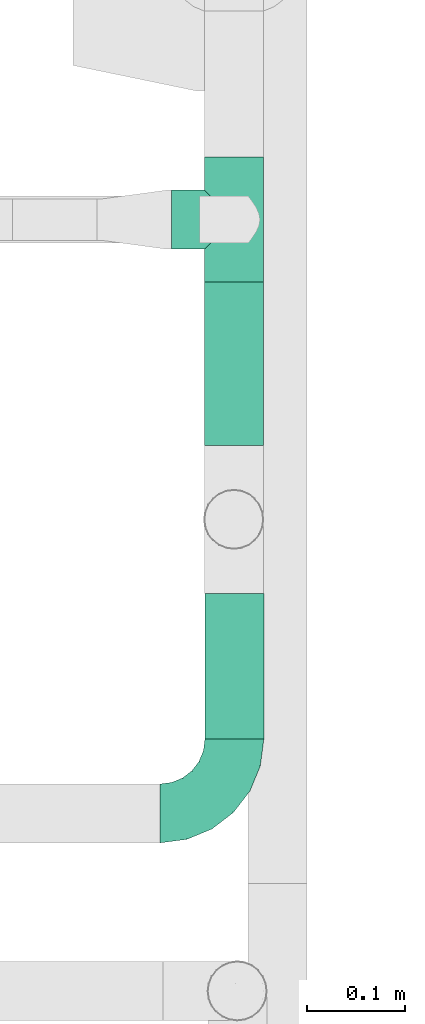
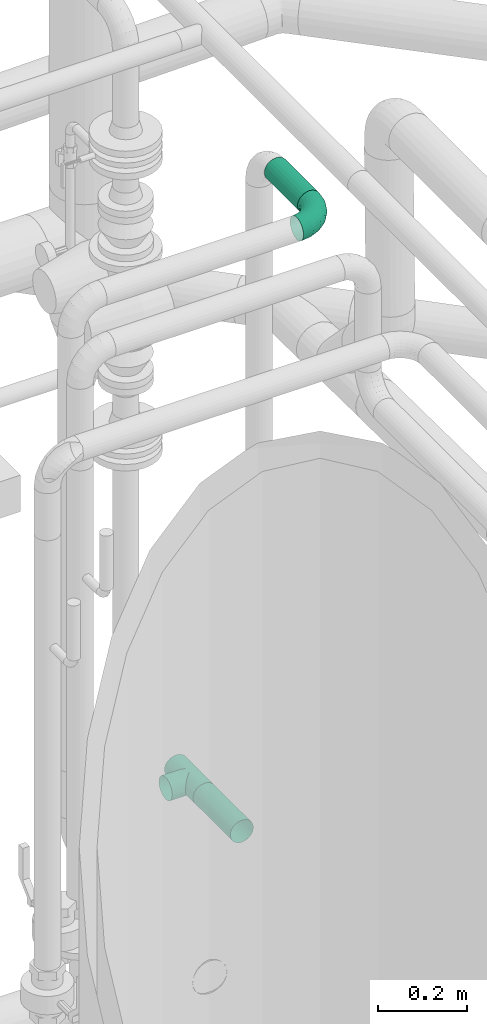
# One storey, part 290 of 374: 3 flow segments, 1 flow fitting.
"""IFC2X3 building model written with IfcOpenShell, lengths in metres."""

from ifc_helpers import new_model, si_unit, direction, origin, place, context, subcontext, project, spatial, open_shell, surface_model, source, transform, mapped, element, save


model = new_model("IFC2X3")

# Units and contexts
model_context = context("Model", 3, precision=1e-05, world=origin(), true_north=direction((-0.4480736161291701, 0.8939966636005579)))
body_context = subcontext(model_context, "Body", "Model", "MODEL_VIEW")
ifc_project = project(units=[si_unit("LENGTHUNIT", "METRE"), si_unit("AREAUNIT", "SQUARE_METRE"), si_unit("VOLUMEUNIT", "CUBIC_METRE"), si_unit("PLANEANGLEUNIT", "RADIAN"), si_unit("THERMODYNAMICTEMPERATUREUNIT", "KELVIN"), si_unit("MASSUNIT", "GRAM", prefix="KILO"), si_unit("TIMEUNIT", "SECOND")], contexts=[model_context])

# Site, building, storey
site_placement = place(None, origin())
site = spatial("IfcSite", under=ifc_project, at=site_placement, Name="Site 1", CompositionType="ELEMENT")
building_placement = place(site_placement, origin())
building = spatial("IfcBuilding", under=site, at=building_placement, Name="Undefined", CompositionType="ELEMENT")
storey_placement = place(building_placement, origin())
storey = spatial("IfcBuildingStorey", under=building, at=storey_placement, Name="Rez de chauss\x8ee", CompositionType="ELEMENT", Elevation=0.0)

# Flow segments
shared_shape_1 = source(origin(), body_context, "Body", "SurfaceModel", [
    surface_model("IfcFaceBasedSurfaceModel", [(0.027710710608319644, 4.4408921e-16, 0.0), (0.02757661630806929, 0.00786958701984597, 7.105427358e-15), (0.00013409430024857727, 0.00786958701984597, 0.0), (0.0, 0.0, 0.0), (-0.02637334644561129, 0.008788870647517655, -0.0070429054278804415), (-0.026766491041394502, 0.0009282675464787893, -0.007111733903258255), (-0.050139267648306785, 0.010564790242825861, -0.02064875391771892), (-0.050764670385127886, 0.0027215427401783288, -0.02085054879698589), (-0.06954406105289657, 0.013076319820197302, -0.03989032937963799), (-0.07035910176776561, 0.00525761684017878, -0.04028016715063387), (-0.0832653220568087, 0.01615230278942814, -0.06345635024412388), (-0.08421445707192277, 0.00836366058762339, -0.06407649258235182), (-0.09036796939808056, 0.019583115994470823, -0.08974083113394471), (-0.0913865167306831, 0.011828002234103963, -0.09061784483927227), (0.027183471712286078, 0.015466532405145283, -0.0020199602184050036), (0.0005272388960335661, 0.015466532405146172, -0.0020199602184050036), (-0.025220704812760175, 0.016359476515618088, -0.008861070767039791), (-0.048305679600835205, 0.018084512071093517, -0.02207708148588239), (-0.06715448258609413, 0.020524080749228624, -0.04076734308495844), (-0.0804825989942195, 0.023511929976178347, -0.06365814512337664), (-0.08738173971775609, 0.026844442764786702, -0.08918951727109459), (0.026558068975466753, 0.022273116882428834, -0.005922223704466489), (0.001152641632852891, 0.02227311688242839, -0.005922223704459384), (-0.02338711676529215, 0.023124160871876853, -0.012442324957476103), (-0.04538886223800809, 0.02476825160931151, -0.02503819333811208), (-0.06335321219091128, 0.027093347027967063, -0.042851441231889), (-0.07605592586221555, 0.029940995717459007, -0.06466812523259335), (-0.08263133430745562, 0.033117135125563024, -0.08900147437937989), (0.025743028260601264, 0.0278254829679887, -0.011440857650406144), (0.0019676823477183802, 0.027825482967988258, -0.011440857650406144), (-0.020997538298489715, 0.028621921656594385, -0.017542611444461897), (-0.04158759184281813, 0.03016052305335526, -0.029330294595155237), (-0.058399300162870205, 0.0323364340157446, -0.04600059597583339), (-0.07028697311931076, 0.03500136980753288, -0.06641746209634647), (-0.07644048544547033, 0.0379737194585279, -0.08918951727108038), (0.02479389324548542, 0.03174524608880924, -0.01819977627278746), (0.0029168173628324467, 0.03174524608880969, -0.01819977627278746), (-0.018214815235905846, 0.0324780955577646, -0.023814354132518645), (-0.03716091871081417, 0.033893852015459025, -0.034660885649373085), (-0.052630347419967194, 0.03589603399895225, -0.05000019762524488), (-0.06356888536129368, 0.03834819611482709, -0.06878694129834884), (-0.06923108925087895, 0.041083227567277, -0.0897408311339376), (0.023775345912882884, 0.03376528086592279, -0.02573837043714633), (0.003935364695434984, 0.03376528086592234, -0.02573837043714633), (-0.01522858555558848, 0.03442989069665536, -0.03083014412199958), (-0.0324105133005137, 0.03571381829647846, -0.040666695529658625), (-0.046439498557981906, 0.0375295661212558, -0.05457767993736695), (-0.05635948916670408, 0.039753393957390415, -0.07161508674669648), (-0.061494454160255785, 0.04223375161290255, -0.09061784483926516), (0.022756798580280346, 0.03374792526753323, -0.033542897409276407), (0.0049539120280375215, 0.033747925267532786, -0.033542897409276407), (-0.01224235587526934, 0.03434429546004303, -0.03811186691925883), (-0.027660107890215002, 0.035496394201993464, -0.04693843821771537), (-0.040248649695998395, 0.0371257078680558, -0.05942109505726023), (-0.04915009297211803, 0.039121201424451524, -0.07470916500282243), (-0.05375781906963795, 0.041346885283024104, -0.09176079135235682), (0.02180766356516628, 0.03169436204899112, -0.04108149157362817), (0.005903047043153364, 0.031694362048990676, -0.04108149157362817), (-0.00945963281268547, 0.03222714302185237, -0.045163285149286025), (-0.02323343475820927, 0.03325639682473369, -0.05304870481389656), (-0.034479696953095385, 0.034711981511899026, -0.06420037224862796), (-0.04243200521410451, 0.036494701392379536, -0.07785831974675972), (-0.04654842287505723, 0.03848306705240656, -0.09309178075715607), (0.020992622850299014, 0.02774453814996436, -0.0478404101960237), (0.006718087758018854, 0.027744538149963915, -0.0478404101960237), (-0.007070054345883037, 0.02822271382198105, -0.05150385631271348), (-0.019432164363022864, 0.0291464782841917, -0.0585810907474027), (-0.029525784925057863, 0.030452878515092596, -0.06858981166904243), (-0.03666305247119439, 0.032052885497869, -0.08084794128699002), (-0.04035757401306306, 0.03383746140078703, -0.09452010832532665), (0.020367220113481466, 0.022167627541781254, -0.05335904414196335), (0.0073434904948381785, 0.022167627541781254, -0.05335904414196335), (-0.00523646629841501, 0.02260390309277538, -0.05670148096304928), (-0.016515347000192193, 0.023446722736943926, -0.06315857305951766), (-0.025724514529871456, 0.02463864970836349, -0.07229028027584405), (-0.03223637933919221, 0.02609845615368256, -0.0834742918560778), (-0.03560716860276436, 0.027726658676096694, -0.09594843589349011), (0.019974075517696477, 0.01534368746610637, -0.05726130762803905), (0.007736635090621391, 0.01534368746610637, -0.05726130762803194), (-0.004083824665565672, 0.01575362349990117, -0.06040194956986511), (-0.014681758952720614, 0.01654555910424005, -0.06646920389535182), (-0.02333493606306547, 0.01766552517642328, -0.07504959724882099), (-0.029453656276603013, 0.01903719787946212, -0.08555839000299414), (-0.032620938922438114, 0.02056709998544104, -0.09727942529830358), (0.019839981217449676, 0.00773775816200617, -0.05928126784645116), (0.007870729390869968, 0.007737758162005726, -0.05928126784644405), (-0.003690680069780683, 0.008138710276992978, -0.062353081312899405), (-0.014056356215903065, 0.008913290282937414, -0.06828736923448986), (-0.022519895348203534, 0.01000871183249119, -0.07667971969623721), (-0.0285045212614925, 0.011350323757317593, -0.08695820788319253), (-0.03160239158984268, 0.012846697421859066, -0.09842237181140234), (0.019974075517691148, -0.0001318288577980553, -0.05928126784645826), (0.007736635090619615, -0.0001318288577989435, -0.05928126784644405), (-0.004083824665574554, 0.0002781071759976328, -0.062421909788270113), (-0.014681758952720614, 0.001070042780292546, -0.06848916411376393), (-0.02333493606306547, 0.0021900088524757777, -0.0770695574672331), (-0.029453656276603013, 0.0035616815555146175, -0.08757835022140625), (-0.032620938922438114, 0.005091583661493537, -0.09929938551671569), (0.020367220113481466, -0.007728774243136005, -0.057261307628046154), (0.0073434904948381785, -0.007728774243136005, -0.057261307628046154), (-0.00523646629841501, -0.00729249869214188, -0.06060374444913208), (-0.016515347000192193, -0.0064496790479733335, -0.06706083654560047), (-0.025724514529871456, -0.005257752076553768, -0.07619254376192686), (-0.03223637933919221, -0.0037979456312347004, -0.0873765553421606), (-0.03560716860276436, -0.0021697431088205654, -0.09985069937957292), (0.020992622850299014, -0.01453535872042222, -0.053359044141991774), (0.006718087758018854, -0.014535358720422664, -0.053359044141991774), (-0.007070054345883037, -0.01405718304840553, -0.05702249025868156), (-0.019432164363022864, -0.013133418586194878, -0.06409972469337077), (-0.029525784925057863, -0.011827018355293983, -0.07410844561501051), (-0.03666305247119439, -0.01022701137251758, -0.0863665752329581), (-0.04035757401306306, -0.008442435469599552, -0.10003874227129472), (0.02180766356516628, -0.020087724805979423, -0.04784041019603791), (0.005903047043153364, -0.020087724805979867, -0.04784041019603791), (-0.00945963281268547, -0.019554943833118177, -0.05192220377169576), (-0.02323343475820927, -0.018525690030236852, -0.0598076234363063), (-0.034479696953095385, -0.017070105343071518, -0.0709592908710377), (-0.04243200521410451, -0.015287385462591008, -0.08461723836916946), (-0.04654842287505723, -0.013299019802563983, -0.09985069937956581), (0.022756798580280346, -0.024007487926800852, -0.0410814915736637), (0.0049539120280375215, -0.024007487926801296, -0.0410814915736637), (-0.01224235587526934, -0.023411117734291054, -0.04565046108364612), (-0.027660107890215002, -0.022259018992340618, -0.054477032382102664), (-0.040248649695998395, -0.02062970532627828, -0.06695968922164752), (-0.04915009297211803, -0.018634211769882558, -0.08224775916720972), (-0.05375781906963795, -0.016408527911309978, -0.09929938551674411), (0.023775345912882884, -0.026027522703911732, -0.033542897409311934), (0.003935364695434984, -0.026027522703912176, -0.033542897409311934), (-0.01522858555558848, -0.025362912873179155, -0.038634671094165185), (-0.0324105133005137, -0.024078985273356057, -0.04847122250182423), (-0.046439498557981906, -0.02226323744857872, -0.062382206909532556), (-0.05635948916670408, -0.020039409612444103, -0.07941961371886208), (-0.061494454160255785, -0.01755905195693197, -0.09842237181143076), (0.02479389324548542, -0.02601016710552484, -0.02573837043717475), (0.0029168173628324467, -0.026010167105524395, -0.02573837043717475), (-0.018214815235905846, -0.025277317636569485, -0.031352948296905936), (-0.03716091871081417, -0.023861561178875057, -0.04219947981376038), (-0.052630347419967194, -0.021859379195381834, -0.05753879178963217), (-0.06356888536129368, -0.01940721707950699, -0.07632553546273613), (-0.06923108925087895, -0.01667218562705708, -0.0972794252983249), (0.025743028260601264, -0.023956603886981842, -0.018199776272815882), (0.0019676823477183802, -0.023956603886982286, -0.018199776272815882), (-0.020997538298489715, -0.02316016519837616, -0.024301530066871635), (-0.04158759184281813, -0.021621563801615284, -0.036089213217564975), (-0.058399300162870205, -0.019445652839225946, -0.05275951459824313), (-0.07028697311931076, -0.016780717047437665, -0.0731763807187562), (-0.07644048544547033, -0.013808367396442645, -0.09594843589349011), (0.026558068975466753, -0.020006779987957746, -0.011440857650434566), (0.001152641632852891, -0.02000677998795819, -0.01144085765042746), (-0.02338711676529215, -0.019155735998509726, -0.01796095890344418), (-0.04538886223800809, -0.01751164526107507, -0.030556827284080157), (-0.06335321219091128, -0.015186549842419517, -0.048370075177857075), (-0.07605592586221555, -0.012338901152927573, -0.07018675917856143), (-0.08263133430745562, -0.009162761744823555, -0.09452010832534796), (0.027183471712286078, -0.014429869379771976, -0.005922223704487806), (0.0005272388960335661, -0.014429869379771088, -0.005922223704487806), (-0.025220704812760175, -0.013536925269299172, -0.012763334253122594), (-0.048305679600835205, -0.011811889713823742, -0.02597934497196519), (-0.06715448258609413, -0.009372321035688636, -0.04466960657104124), (-0.0804825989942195, -0.006384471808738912, -0.06756040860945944), (-0.08738173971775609, -0.003051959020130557, -0.09309178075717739), (0.02757661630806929, -0.007605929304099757, -0.0020199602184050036), (0.00013409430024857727, -0.007605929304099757, -0.002019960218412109), (-0.02637334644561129, -0.006686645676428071, -0.00906286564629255), (-0.050139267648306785, -0.004910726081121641, -0.02266871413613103), (-0.06954406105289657, -0.0023991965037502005, -0.0419102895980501), (-0.0832653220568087, 0.0006767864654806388, -0.06547631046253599), (-0.09036796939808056, 0.004107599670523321, -0.09176079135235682)], [open_shell([[[0, 1, 2, 3]], [[3, 2, 4, 5]], [[5, 4, 6, 7]], [[7, 6, 8, 9]], [[9, 8, 10, 11]], [[11, 10, 12, 13]], [[1, 14, 15, 2]], [[2, 15, 16, 4]], [[4, 16, 17, 6]], [[6, 17, 18, 8]], [[8, 18, 19, 10]], [[10, 19, 20, 12]], [[14, 21, 22, 15]], [[15, 22, 23, 16]], [[16, 23, 24, 17]], [[17, 24, 25, 18]], [[18, 25, 26, 19]], [[19, 26, 27, 20]], [[21, 28, 29, 22]], [[22, 29, 30, 23]], [[23, 30, 31, 24]], [[24, 31, 32, 25]], [[25, 32, 33, 26]], [[26, 33, 34, 27]], [[28, 35, 36, 29]], [[29, 36, 37, 30]], [[30, 37, 38, 31]], [[31, 38, 39, 32]], [[32, 39, 40, 33]], [[33, 40, 41, 34]], [[35, 42, 43, 36]], [[36, 43, 44, 37]], [[37, 44, 45, 38]], [[38, 45, 46, 39]], [[39, 46, 47, 40]], [[40, 47, 48, 41]], [[42, 49, 50, 43]], [[43, 50, 51, 44]], [[44, 51, 52, 45]], [[45, 52, 53, 46]], [[46, 53, 54, 47]], [[47, 54, 55, 48]], [[49, 56, 57, 50]], [[50, 57, 58, 51]], [[51, 58, 59, 52]], [[52, 59, 60, 53]], [[53, 60, 61, 54]], [[54, 61, 62, 55]], [[56, 63, 64, 57]], [[57, 64, 65, 58]], [[58, 65, 66, 59]], [[59, 66, 67, 60]], [[60, 67, 68, 61]], [[61, 68, 69, 62]], [[63, 70, 71, 64]], [[64, 71, 72, 65]], [[65, 72, 73, 66]], [[66, 73, 74, 67]], [[67, 74, 75, 68]], [[68, 75, 76, 69]], [[70, 77, 78, 71]], [[71, 78, 79, 72]], [[72, 79, 80, 73]], [[73, 80, 81, 74]], [[74, 81, 82, 75]], [[75, 82, 83, 76]], [[77, 84, 85, 78]], [[78, 85, 86, 79]], [[79, 86, 87, 80]], [[80, 87, 88, 81]], [[81, 88, 89, 82]], [[82, 89, 90, 83]], [[84, 91, 92, 85]], [[85, 92, 93, 86]], [[86, 93, 94, 87]], [[87, 94, 95, 88]], [[88, 95, 96, 89]], [[89, 96, 97, 90]], [[91, 98, 99, 92]], [[92, 99, 100, 93]], [[93, 100, 101, 94]], [[94, 101, 102, 95]], [[95, 102, 103, 96]], [[96, 103, 104, 97]], [[98, 105, 106, 99]], [[99, 106, 107, 100]], [[100, 107, 108, 101]], [[101, 108, 109, 102]], [[102, 109, 110, 103]], [[103, 110, 111, 104]], [[105, 112, 113, 106]], [[106, 113, 114, 107]], [[107, 114, 115, 108]], [[108, 115, 116, 109]], [[109, 116, 117, 110]], [[110, 117, 118, 111]], [[112, 119, 120, 113]], [[113, 120, 121, 114]], [[114, 121, 122, 115]], [[115, 122, 123, 116]], [[116, 123, 124, 117]], [[117, 124, 125, 118]], [[119, 126, 127, 120]], [[120, 127, 128, 121]], [[121, 128, 129, 122]], [[122, 129, 130, 123]], [[123, 130, 131, 124]], [[124, 131, 132, 125]], [[126, 133, 134, 127]], [[127, 134, 135, 128]], [[128, 135, 136, 129]], [[129, 136, 137, 130]], [[130, 137, 138, 131]], [[131, 138, 139, 132]], [[133, 140, 141, 134]], [[134, 141, 142, 135]], [[135, 142, 143, 136]], [[136, 143, 144, 137]], [[137, 144, 145, 138]], [[138, 145, 146, 139]], [[140, 147, 148, 141]], [[141, 148, 149, 142]], [[142, 149, 150, 143]], [[143, 150, 151, 144]], [[144, 151, 152, 145]], [[145, 152, 153, 146]], [[147, 154, 155, 148]], [[148, 155, 156, 149]], [[149, 156, 157, 150]], [[150, 157, 158, 151]], [[151, 158, 159, 152]], [[152, 159, 160, 153]], [[154, 161, 162, 155]], [[155, 162, 163, 156]], [[156, 163, 164, 157]], [[157, 164, 165, 158]], [[158, 165, 166, 159]], [[159, 166, 167, 160]], [[161, 0, 3, 162]], [[162, 3, 5, 163]], [[163, 5, 7, 164]], [[164, 7, 9, 165]], [[165, 9, 11, 166]], [[166, 11, 13, 167]]])]),
])
flow_segment_1_placement = place(storey_placement, origin())
element("IfcFlowSegment", 1, at=flow_segment_1_placement, inside=storey, Name="Tube coudé", ObjectType="Tube coudé", context=body_context, shape_type="MappedRepresentation", body=[
    mapped(shared_shape_1, transform((55.026325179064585, 11.14858881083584, 2.0596255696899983), x_axis=(0.13052616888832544, 0.991444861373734, -7.804456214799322e-05), y_axis=(-0.12772811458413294, 0.01689378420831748, 0.991665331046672), z_axis=(0.9831828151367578, -0.1294283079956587, 0.12884046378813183))),
])
shared_shape_2 = source(origin(), body_context, "Body", "SurfaceModel", [
    surface_model("IfcFaceBasedSurfaceModel", [(0.0, 0.007870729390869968, 7.105427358e-15), (0.0, 0.0, 0.0), (0.14893754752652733, -7.105427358e-15, 0.0), (0.14893754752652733, 0.007870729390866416, 0.0), (0.0, -0.00760254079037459, -0.0020370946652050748), (0.14893754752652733, -0.007602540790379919, -0.0020370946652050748), (0.0, -0.01441879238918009, -0.00597245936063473), (0.14893754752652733, -0.014418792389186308, -0.005972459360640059), (0.0, -0.019984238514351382, -0.011537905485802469), (0.14893754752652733, -0.01998423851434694, -0.011537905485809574), (0.0, -0.023919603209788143, -0.018354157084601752), (0.14893754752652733, -0.023919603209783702, -0.018354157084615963), (0.0, -0.025956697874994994, -0.025956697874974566), (0.14893754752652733, -0.025956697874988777, -0.025956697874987), (0.0, -0.025956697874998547, -0.03382742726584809), (0.14893754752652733, -0.025956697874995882, -0.03382742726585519), (0.0, -0.02391960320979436, -0.041429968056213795), (0.14893754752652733, -0.023919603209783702, -0.04142996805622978), (0.0, -0.019984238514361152, -0.04824621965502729), (0.14893754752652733, -0.01998423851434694, -0.048246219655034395), (0.0, -0.01441879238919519, -0.05381166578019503), (0.14893754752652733, -0.014418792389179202, -0.053811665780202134), (0.0, -0.007602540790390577, -0.05774703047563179), (0.14893754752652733, -0.007602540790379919, -0.05774703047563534), (0.0, -1.7763568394e-14, -0.05978412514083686), (0.14893754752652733, -7.105427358e-15, -0.05978412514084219), (0.0, 0.007870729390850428, -0.05978412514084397), (0.14893754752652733, 0.007870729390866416, -0.059784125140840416), (0.0, 0.015473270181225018, -0.057747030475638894), (0.14893754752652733, 0.01547327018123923, -0.05774703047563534), (0.0, 0.022289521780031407, -0.05381166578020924), (0.14893754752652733, 0.022289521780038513, -0.05381166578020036), (0.0, 0.027854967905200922, -0.048246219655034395), (0.14893754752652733, 0.027854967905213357, -0.04824621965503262), (0.0, 0.031790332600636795, -0.04142996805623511), (0.14893754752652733, 0.03179033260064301, -0.041429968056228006), (0.0, 0.033827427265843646, -0.0338274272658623), (0.14893754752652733, 0.03382742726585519, -0.03382742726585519), (0.0, 0.0338274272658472, -0.025956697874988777), (0.14893754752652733, 0.03382742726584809, -0.025956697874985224), (0.0, 0.0317903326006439, -0.01835415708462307), (0.14893754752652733, 0.03179033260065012, -0.01835415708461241), (0.0, 0.02785496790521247, -0.01153790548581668), (0.14893754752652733, 0.027854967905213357, -0.011537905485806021), (0.0, 0.022289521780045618, -0.005972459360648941), (0.14893754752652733, 0.022289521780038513, -0.0059724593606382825), (0.0, 0.015473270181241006, -0.0020370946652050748), (0.14893754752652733, 0.01547327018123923, -0.0020370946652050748)], [open_shell([[[0, 1, 2, 3]], [[1, 4, 5, 2]], [[4, 6, 7, 5]], [[6, 8, 9, 7]], [[8, 10, 11, 9]], [[10, 12, 13, 11]], [[12, 14, 15, 13]], [[14, 16, 17, 15]], [[16, 18, 19, 17]], [[18, 20, 21, 19]], [[20, 22, 23, 21]], [[22, 24, 25, 23]], [[24, 26, 27, 25]], [[26, 28, 29, 27]], [[28, 30, 31, 29]], [[30, 32, 33, 31]], [[32, 34, 35, 33]], [[34, 36, 37, 35]], [[36, 38, 39, 37]], [[38, 40, 41, 39]], [[40, 42, 43, 41]], [[42, 44, 45, 43]], [[44, 46, 47, 45]], [[46, 0, 3, 47]]])]),
])
flow_segment_2_placement = place(storey_placement, origin())
element("IfcFlowSegment", 2, at=flow_segment_2_placement, inside=storey, Name="Tube acier d'après DIN 2448", ObjectType="Tube acier d'après DIN 2448", context=body_context, shape_type="MappedRepresentation", body=[
    mapped(shared_shape_2, transform((55.007612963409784, 11.176062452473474, 2.0887594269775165), x_axis=(0.0, 1.0, 0.0), y_axis=(-0.991366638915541, 0.0, 0.13111898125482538), z_axis=(0.1311189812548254, 0.0, 0.9913666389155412))),
])

# Flow fitting
shared_shape_3 = source(origin(), body_context, "Body", "SurfaceModel", [
    surface_model("IfcFaceBasedSurfaceModel", [(0.0, 0.007870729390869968, 7.105427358e-15), (0.0, 0.0, 0.0), (0.1280000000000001, -8.8817842e-16, 0.0), (0.1280000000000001, 0.007870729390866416, 0.0), (0.0, -0.00760254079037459, -0.0020370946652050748), (0.1280000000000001, -0.007602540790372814, -0.002037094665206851), (0.0, -0.01441879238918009, -0.00597245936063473), (0.1280000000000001, -0.014418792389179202, -0.005972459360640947), (0.0, -0.019984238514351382, -0.011537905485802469), (0.1280000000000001, -0.01998423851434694, -0.011537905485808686), (0.0, -0.023919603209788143, -0.018354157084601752), (0.1280000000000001, -0.023919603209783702, -0.018354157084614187), (0.0, -0.025956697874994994, -0.025956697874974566), (0.1280000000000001, -0.02595669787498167, -0.02595669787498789), (0.0, -0.025956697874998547, -0.03382742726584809), (0.1280000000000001, -0.025956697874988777, -0.03382742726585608), (0.0, -0.02391960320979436, -0.041429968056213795), (0.1280000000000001, -0.023919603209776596, -0.04142996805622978), (0.0, -0.019984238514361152, -0.04824621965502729), (0.1280000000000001, -0.01998423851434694, -0.048246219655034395), (0.0, -0.01441879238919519, -0.05381166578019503), (0.1280000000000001, -0.014418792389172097, -0.05381166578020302), (0.0, -0.007602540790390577, -0.05774703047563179), (0.1280000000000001, -0.007602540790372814, -0.05774703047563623), (0.0, -1.7763568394e-14, -0.05978412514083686), (0.1280000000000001, 0.0, -0.059784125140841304), (0.0, 0.007870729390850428, -0.05978412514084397), (0.1280000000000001, 0.007870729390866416, -0.059784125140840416), (0.0, 0.015473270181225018, -0.057747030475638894), (0.1280000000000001, 0.01547327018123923, -0.05774703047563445), (0.0, 0.022289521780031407, -0.05381166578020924), (0.1280000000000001, 0.022289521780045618, -0.05381166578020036), (0.0, 0.027854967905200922, -0.048246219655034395), (0.1280000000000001, 0.027854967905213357, -0.04824621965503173), (0.0, 0.031790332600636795, -0.04142996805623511), (0.1280000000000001, 0.03179033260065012, -0.04142996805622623), (0.0, 0.033827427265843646, -0.0338274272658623), (0.1280000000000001, 0.03382742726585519, -0.033827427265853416), (0.0, 0.0338274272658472, -0.025956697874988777), (0.1280000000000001, 0.03382742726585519, -0.025956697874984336), (0.0, 0.0317903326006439, -0.01835415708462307), (0.1280000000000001, 0.03179033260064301, -0.018354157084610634), (0.0, 0.02785496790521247, -0.01153790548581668), (0.1280000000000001, 0.027854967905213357, -0.01153790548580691), (0.0, 0.022289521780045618, -0.005972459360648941), (0.1280000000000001, 0.022289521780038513, -0.0059724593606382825), (0.0, 0.015473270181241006, -0.0020370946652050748), (0.1280000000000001, 0.015473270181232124, -0.0020370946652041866), (0.09415000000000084, 0.03382742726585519, -0.033827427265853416), (0.09312266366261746, 0.03179033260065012, -0.04142996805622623), (0.09312266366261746, 0.06636928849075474, -0.045982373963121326), (0.09415000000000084, 0.06738783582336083, -0.038245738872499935), (0.09011066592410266, 0.027854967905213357, -0.04824621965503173), (0.09011066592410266, 0.06542015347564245, -0.05319177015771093), (0.08531926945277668, 0.022289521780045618, -0.05381166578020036), (0.08531926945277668, 0.06460511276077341, -0.0593826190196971), (0.07907500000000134, 0.01547327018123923, -0.05774703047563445), (0.07907500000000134, 0.06397971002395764, -0.06413302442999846), (0.07180339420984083, 0.007870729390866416, -0.059784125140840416), (0.07180339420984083, 0.06358656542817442, -0.0671192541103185), (0.06400000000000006, 0.0, -0.059784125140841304), (0.06400000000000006, 0.06345247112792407, -0.06813780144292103), (0.05619660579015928, 0.007870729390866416, -0.059784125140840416), (0.05619660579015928, 0.06358656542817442, -0.0671192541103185), (0.04892500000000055, 0.01547327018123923, -0.05774703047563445), (0.04892500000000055, 0.06397971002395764, -0.06413302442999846), (0.04268073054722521, 0.022289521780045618, -0.05381166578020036), (0.04268073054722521, 0.06460511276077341, -0.0593826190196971), (0.03788933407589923, 0.027854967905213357, -0.04824621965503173), (0.03788933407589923, 0.06542015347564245, -0.05319177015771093), (0.034877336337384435, 0.03179033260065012, -0.04142996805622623), (0.034877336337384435, 0.06636928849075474, -0.045982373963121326), (0.033850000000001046, 0.03382742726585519, -0.033827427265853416), (0.033850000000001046, 0.06738783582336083, -0.038245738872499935), (0.034877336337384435, 0.03382742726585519, -0.025956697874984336), (0.034877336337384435, 0.06840638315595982, -0.030509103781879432), (0.03788933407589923, 0.03179033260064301, -0.018354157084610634), (0.03788933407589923, 0.0693555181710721, -0.02329970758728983), (0.04268073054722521, 0.027854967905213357, -0.01153790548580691), (0.04268073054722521, 0.07017055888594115, -0.017108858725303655), (0.04892500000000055, 0.022289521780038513, -0.0059724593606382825), (0.04892500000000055, 0.07079596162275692, -0.012358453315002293), (0.05619660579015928, 0.015473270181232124, -0.0020370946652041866), (0.05619660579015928, 0.07118910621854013, -0.009372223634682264), (0.06400000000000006, 0.007870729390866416, 0.0), (0.06400000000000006, 0.07132320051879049, -0.008353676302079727), (0.07180339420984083, 0.015473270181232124, -0.0020370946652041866), (0.07180339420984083, 0.07118910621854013, -0.009372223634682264), (0.07907500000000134, 0.022289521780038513, -0.0059724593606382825), (0.07907500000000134, 0.07079596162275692, -0.012358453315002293), (0.08531926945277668, 0.027854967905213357, -0.01153790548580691), (0.08531926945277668, 0.07017055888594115, -0.017108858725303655), (0.09011066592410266, 0.03179033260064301, -0.018354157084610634), (0.09011066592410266, 0.0693555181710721, -0.02329970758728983), (0.09312266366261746, 0.03382742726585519, -0.025956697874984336), (0.09312266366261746, 0.06840638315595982, -0.030509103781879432)], [open_shell([[[0, 1, 2, 3]], [[1, 4, 5, 2]], [[4, 6, 7, 5]], [[6, 8, 9, 7]], [[8, 10, 11, 9]], [[10, 12, 13, 11]], [[12, 14, 15, 13]], [[14, 16, 17, 15]], [[16, 18, 19, 17]], [[18, 20, 21, 19]], [[20, 22, 23, 21]], [[22, 24, 25, 23]], [[24, 26, 27, 25]], [[26, 28, 29, 27]], [[28, 30, 31, 29]], [[30, 32, 33, 31]], [[32, 34, 35, 33]], [[34, 36, 37, 35]], [[36, 38, 39, 37]], [[38, 40, 41, 39]], [[40, 42, 43, 41]], [[42, 44, 45, 43]], [[44, 46, 47, 45]], [[46, 0, 3, 47]], [[48, 49, 50, 51]], [[49, 52, 53, 50]], [[52, 54, 55, 53]], [[54, 56, 57, 55]], [[56, 58, 59, 57]], [[58, 60, 61, 59]], [[60, 62, 63, 61]], [[62, 64, 65, 63]], [[64, 66, 67, 65]], [[66, 68, 69, 67]], [[68, 70, 71, 69]], [[70, 72, 73, 71]], [[72, 74, 75, 73]], [[74, 76, 77, 75]], [[76, 78, 79, 77]], [[78, 80, 81, 79]], [[80, 82, 83, 81]], [[82, 84, 85, 83]], [[84, 86, 87, 85]], [[86, 88, 89, 87]], [[88, 90, 91, 89]], [[90, 92, 93, 91]], [[92, 94, 95, 93]], [[94, 48, 51, 95]]])]),
])
flow_fitting_placement = place(storey_placement, origin())
element("IfcFlowFitting", 3, at=flow_fitting_placement, inside=storey, Name="Pièce d' embranchement", ObjectType="Pièce d' embranchement", context=body_context, shape_type="MappedRepresentation", body=[
    mapped(shared_shape_3, transform((55.00713263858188, 11.644084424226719, 0.18359865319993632), x_axis=(0.0, 1.0, 0.0), y_axis=(-0.9914448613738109, 0.0, 0.1305261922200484), z_axis=(0.1305261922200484, 0.0, 0.9914448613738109))),
])

# Flow segment
shared_shape_4 = source(origin(), body_context, "Body", "SurfaceModel", [
    surface_model("IfcFaceBasedSurfaceModel", [(0.0, 0.007870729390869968, 7.105427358e-15), (0.0, 0.0, 0.0), (0.16708442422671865, 0.0, 0.0), (0.16708442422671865, 0.007870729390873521, 0.0), (0.0, -0.00760254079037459, -0.0020370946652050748), (0.16708442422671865, -0.007602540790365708, -0.002037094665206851), (0.0, -0.01441879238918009, -0.00597245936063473), (0.16708442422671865, -0.014418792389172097, -0.005972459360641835), (0.0, -0.019984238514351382, -0.011537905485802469), (0.16708442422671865, -0.019984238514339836, -0.011537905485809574), (0.0, -0.023919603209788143, -0.018354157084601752), (0.16708442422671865, -0.023919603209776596, -0.018354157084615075), (0.0, -0.025956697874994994, -0.025956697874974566), (0.16708442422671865, -0.02595669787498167, -0.025956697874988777), (0.0, -0.025956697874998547, -0.03382742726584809), (0.16708442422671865, -0.02595669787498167, -0.03382742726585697), (0.0, -0.02391960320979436, -0.041429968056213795), (0.16708442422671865, -0.023919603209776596, -0.04142996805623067), (0.0, -0.019984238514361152, -0.04824621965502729), (0.16708442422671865, -0.019984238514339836, -0.04824621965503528), (0.0, -0.01441879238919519, -0.05381166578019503), (0.16708442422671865, -0.014418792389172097, -0.05381166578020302), (0.0, -0.007602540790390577, -0.05774703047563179), (0.16708442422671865, -0.007602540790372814, -0.05774703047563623), (0.0, -1.7763568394e-14, -0.05978412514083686), (0.16708442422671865, 7.105427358e-15, -0.059784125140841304), (0.0, 0.007870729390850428, -0.05978412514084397), (0.16708442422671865, 0.007870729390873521, -0.059784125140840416), (0.0, 0.015473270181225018, -0.057747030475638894), (0.16708442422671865, 0.015473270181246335, -0.05774703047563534), (0.0, 0.022289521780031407, -0.05381166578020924), (0.16708442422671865, 0.02228952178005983, -0.05381166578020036), (0.0, 0.027854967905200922, -0.048246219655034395), (0.16708442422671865, 0.027854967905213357, -0.04824621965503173), (0.0, 0.031790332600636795, -0.04142996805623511), (0.16708442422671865, 0.03179033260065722, -0.04142996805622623), (0.0, 0.033827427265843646, -0.0338274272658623), (0.16708442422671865, 0.0338274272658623, -0.033827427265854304), (0.0, 0.0338274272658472, -0.025956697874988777), (0.16708442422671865, 0.0338274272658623, -0.025956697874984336), (0.0, 0.0317903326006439, -0.01835415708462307), (0.16708442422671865, 0.03179033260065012, -0.018354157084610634), (0.0, 0.02785496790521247, -0.01153790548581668), (0.16708442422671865, 0.027854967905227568, -0.01153790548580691), (0.0, 0.022289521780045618, -0.005972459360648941), (0.16708442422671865, 0.022289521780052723, -0.005972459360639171), (0.0, 0.015473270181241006, -0.0020370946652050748), (0.16708442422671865, 0.015473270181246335, -0.0020370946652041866)], [open_shell([[[0, 1, 2, 3]], [[1, 4, 5, 2]], [[4, 6, 7, 5]], [[6, 8, 9, 7]], [[8, 10, 11, 9]], [[10, 12, 13, 11]], [[12, 14, 15, 13]], [[14, 16, 17, 15]], [[16, 18, 19, 17]], [[18, 20, 21, 19]], [[20, 22, 23, 21]], [[22, 24, 25, 23]], [[24, 26, 27, 25]], [[26, 28, 29, 27]], [[28, 30, 31, 29]], [[30, 32, 33, 31]], [[32, 34, 35, 33]], [[34, 36, 37, 35]], [[36, 38, 39, 37]], [[38, 40, 41, 39]], [[40, 42, 43, 41]], [[42, 44, 45, 43]], [[44, 46, 47, 45]], [[46, 0, 3, 47]]])]),
])
flow_segment_3_placement = place(storey_placement, origin())
element("IfcFlowSegment", 4, at=flow_segment_3_placement, inside=storey, Name="Tube acier d'après DIN 2448", ObjectType="Tube acier d'après DIN 2448", context=body_context, shape_type="MappedRepresentation", body=[
    mapped(shared_shape_4, transform((55.00713263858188, 11.644084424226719, 0.1253533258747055), x_axis=(0.0, -1.0, 0.0), y_axis=(-0.9914448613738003, 0.0, -0.13052619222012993), z_axis=(0.130526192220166, 0.0, -0.9914448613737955))),
])

save(model, "model.ifc")
